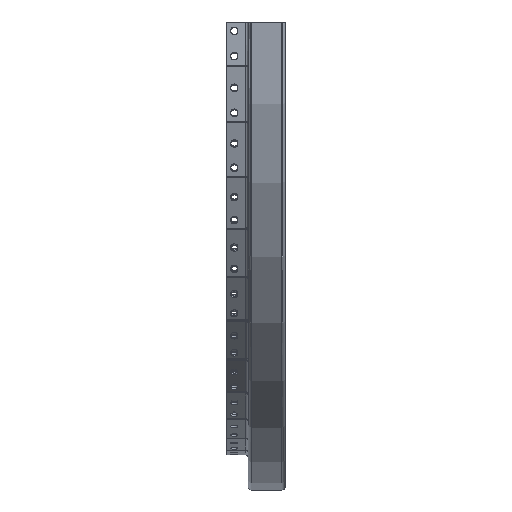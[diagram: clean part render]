
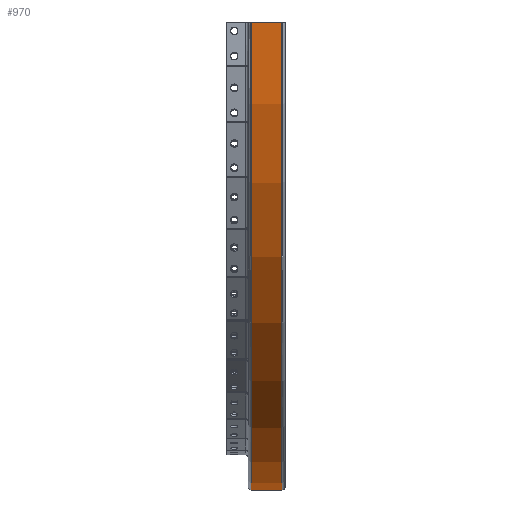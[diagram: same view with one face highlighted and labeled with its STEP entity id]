
A CAD part, left-side view. The second image highlights one B-rep face of the part: STEP entity #970.
In plain terms, the highlighted cylindrical face has radius 448.5 mm (diameter 897 mm), a partial arc.
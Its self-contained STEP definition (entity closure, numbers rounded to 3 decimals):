
#152=CYLINDRICAL_SURFACE('',#9838,448.5);
#572=FACE_OUTER_BOUND('',#3529,.T.);
#970=ADVANCED_FACE('',(#572),#152,.T.);
#1941=LINE('',#15327,#2445);
#1942=LINE('',#15372,#2446);
#2445=VECTOR('',#11917,1.);
#2446=VECTOR('',#11926,1.);
#3529=EDGE_LOOP('',(#5185,#5186,#5187,#5188));
#5185=ORIENTED_EDGE('',*,*,#8319,.F.);
#5186=ORIENTED_EDGE('',*,*,#8197,.T.);
#5187=ORIENTED_EDGE('',*,*,#8320,.T.);
#5188=ORIENTED_EDGE('',*,*,#8191,.T.);
#7305=VERTEX_POINT('',#15326);
#7306=VERTEX_POINT('',#15328);
#7307=VERTEX_POINT('',#15371);
#7308=VERTEX_POINT('',#15373);
#8191=EDGE_CURVE('',#7306,#7305,#1941,.T.);
#8197=EDGE_CURVE('',#7308,#7307,#1942,.T.);
#8319=EDGE_CURVE('',#7308,#7305,#9015,.T.);
#8320=EDGE_CURVE('',#7307,#7306,#9016,.T.);
#9015=CIRCLE('',#9835,448.5);
#9016=CIRCLE('',#9837,448.5);
#9835=AXIS2_PLACEMENT_3D('',#15922,#12119,#12120);
#9837=AXIS2_PLACEMENT_3D('',#15924,#12123,#12124);
#9838=AXIS2_PLACEMENT_3D('',#15925,#12125,#12126);
#11917=DIRECTION('',(0.,-1.,0.));
#11926=DIRECTION('',(0.,1.,0.));
#12119=DIRECTION('',(0.,-1.,0.));
#12120=DIRECTION('',(0.,0.,1.));
#12123=DIRECTION('',(0.,-1.,0.));
#12124=DIRECTION('',(0.,0.,1.));
#12125=DIRECTION('',(0.,1.,0.));
#12126=DIRECTION('',(0.,0.,1.));
#15326=CARTESIAN_POINT('',(448.453,2.,-6.5));
#15327=CARTESIAN_POINT('',(448.453,0.,-6.5));
#15328=CARTESIAN_POINT('',(448.453,31.,-6.5));
#15371=CARTESIAN_POINT('',(-448.453,31.,-6.5));
#15372=CARTESIAN_POINT('',(-448.453,0.,-6.5));
#15373=CARTESIAN_POINT('',(-448.453,2.,-6.5));
#15922=CARTESIAN_POINT('',(0.,2.,0.));
#15924=CARTESIAN_POINT('',(0.,31.,0.));
#15925=CARTESIAN_POINT('',(0.,0.,0.));
